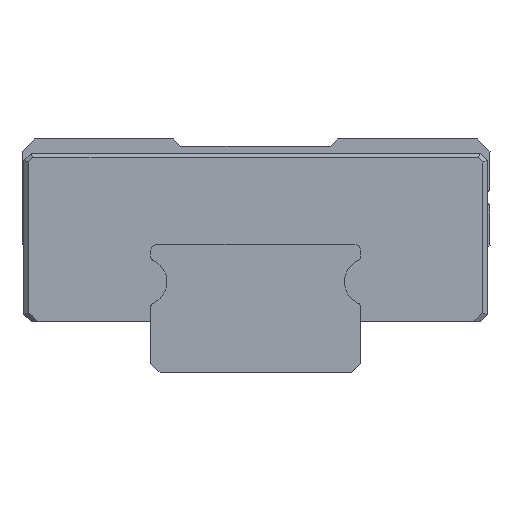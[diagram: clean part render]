
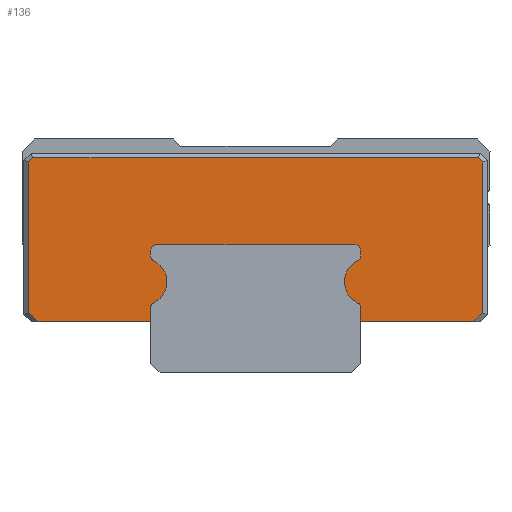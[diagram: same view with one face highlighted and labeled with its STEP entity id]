
A CAD part, front view. The second image highlights one B-rep face of the part: STEP entity #136.
In plain terms, the highlighted planar face has unit normal (0, -1, 0).
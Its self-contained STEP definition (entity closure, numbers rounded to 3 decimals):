
#136 = ADVANCED_FACE( '', ( #272 ), #273, .F. );
#272 = FACE_OUTER_BOUND( '', #532, .T. );
#273 = PLANE( '', #533 );
#532 = EDGE_LOOP( '', ( #871, #872, #873, #874, #875, #876, #877, #878, #879, #880, #881, #882, #883, #884, #885, #886, #887, #888, #889, #890, #891, #892 ) );
#533 = AXIS2_PLACEMENT_3D( '', #893, #894, #895 );
#871 = ORIENTED_EDGE( '', *, *, #1810, .T. );
#872 = ORIENTED_EDGE( '', *, *, #1811, .T. );
#873 = ORIENTED_EDGE( '', *, *, #1812, .T. );
#874 = ORIENTED_EDGE( '', *, *, #1813, .F. );
#875 = ORIENTED_EDGE( '', *, *, #1814, .F. );
#876 = ORIENTED_EDGE( '', *, *, #1815, .F. );
#877 = ORIENTED_EDGE( '', *, *, #1816, .F. );
#878 = ORIENTED_EDGE( '', *, *, #1817, .F. );
#879 = ORIENTED_EDGE( '', *, *, #1818, .F. );
#880 = ORIENTED_EDGE( '', *, *, #1819, .F. );
#881 = ORIENTED_EDGE( '', *, *, #1820, .F. );
#882 = ORIENTED_EDGE( '', *, *, #1821, .F. );
#883 = ORIENTED_EDGE( '', *, *, #1822, .F. );
#884 = ORIENTED_EDGE( '', *, *, #1823, .F. );
#885 = ORIENTED_EDGE( '', *, *, #1824, .F. );
#886 = ORIENTED_EDGE( '', *, *, #1825, .F. );
#887 = ORIENTED_EDGE( '', *, *, #1826, .T. );
#888 = ORIENTED_EDGE( '', *, *, #1827, .T. );
#889 = ORIENTED_EDGE( '', *, *, #1828, .T. );
#890 = ORIENTED_EDGE( '', *, *, #1829, .T. );
#891 = ORIENTED_EDGE( '', *, *, #1830, .T. );
#892 = ORIENTED_EDGE( '', *, *, #1831, .T. );
#893 = CARTESIAN_POINT( '', ( 46.8, 27.35, 5.8 ) );
#894 = DIRECTION( '', ( 0., 1., 0. ) );
#895 = DIRECTION( '', ( 1., 0., 0. ) );
#1810 = EDGE_CURVE( '', #2170, #2171, #2172, .T. );
#1811 = EDGE_CURVE( '', #2171, #2173, #2174, .T. );
#1812 = EDGE_CURVE( '', #2173, #2175, #2176, .T. );
#1813 = EDGE_CURVE( '', #2177, #2175, #2178, .T. );
#1814 = EDGE_CURVE( '', #2179, #2177, #2180, .T. );
#1815 = EDGE_CURVE( '', #2181, #2179, #2182, .T. );
#1816 = EDGE_CURVE( '', #2183, #2181, #2184, .T. );
#1817 = EDGE_CURVE( '', #2185, #2183, #2186, .T. );
#1818 = EDGE_CURVE( '', #2187, #2185, #2188, .T. );
#1819 = EDGE_CURVE( '', #2189, #2187, #2190, .T. );
#1820 = EDGE_CURVE( '', #2191, #2189, #2192, .T. );
#1821 = EDGE_CURVE( '', #2193, #2191, #2194, .T. );
#1822 = EDGE_CURVE( '', #2195, #2193, #2196, .T. );
#1823 = EDGE_CURVE( '', #2197, #2195, #2198, .T. );
#1824 = EDGE_CURVE( '', #2199, #2197, #2200, .T. );
#1825 = EDGE_CURVE( '', #2201, #2199, #2202, .T. );
#1826 = EDGE_CURVE( '', #2201, #2203, #2204, .T. );
#1827 = EDGE_CURVE( '', #2203, #2205, #2206, .T. );
#1828 = EDGE_CURVE( '', #2205, #2207, #2208, .T. );
#1829 = EDGE_CURVE( '', #2207, #2209, #2210, .T. );
#1830 = EDGE_CURVE( '', #2209, #2211, #2212, .T. );
#1831 = EDGE_CURVE( '', #2211, #2170, #2213, .T. );
#2170 = VERTEX_POINT( '', #2718 );
#2171 = VERTEX_POINT( '', #2719 );
#2172 = LINE( '', #2720, #2721 );
#2173 = VERTEX_POINT( '', #2722 );
#2174 = LINE( '', #2723, #2724 );
#2175 = VERTEX_POINT( '', #2725 );
#2176 = LINE( '', #2726, #2727 );
#2177 = VERTEX_POINT( '', #2728 );
#2178 = LINE( '', #2729, #2730 );
#2179 = VERTEX_POINT( '', #2731 );
#2180 = CIRCLE( '', #2732, 0.2 );
#2181 = VERTEX_POINT( '', #2733 );
#2182 = CIRCLE( '', #2734, 1.006 );
#2183 = VERTEX_POINT( '', #2735 );
#2184 = CIRCLE( '', #2736, 0.2 );
#2185 = VERTEX_POINT( '', #2737 );
#2186 = LINE( '', #2738, #2739 );
#2187 = VERTEX_POINT( '', #2740 );
#2188 = CIRCLE( '', #2741, 0.3 );
#2189 = VERTEX_POINT( '', #2742 );
#2190 = LINE( '', #2743, #2744 );
#2191 = VERTEX_POINT( '', #2745 );
#2192 = CIRCLE( '', #2746, 0.3 );
#2193 = VERTEX_POINT( '', #2747 );
#2194 = LINE( '', #2748, #2749 );
#2195 = VERTEX_POINT( '', #2750 );
#2196 = CIRCLE( '', #2751, 0.2 );
#2197 = VERTEX_POINT( '', #2752 );
#2198 = CIRCLE( '', #2753, 1.006 );
#2199 = VERTEX_POINT( '', #2754 );
#2200 = CIRCLE( '', #2755, 0.2 );
#2201 = VERTEX_POINT( '', #2756 );
#2202 = LINE( '', #2757, #2758 );
#2203 = VERTEX_POINT( '', #2759 );
#2204 = LINE( '', #2760, #2761 );
#2205 = VERTEX_POINT( '', #2762 );
#2206 = LINE( '', #2763, #2764 );
#2207 = VERTEX_POINT( '', #2765 );
#2208 = LINE( '', #2766, #2767 );
#2209 = VERTEX_POINT( '', #2768 );
#2210 = LINE( '', #2769, #2770 );
#2211 = VERTEX_POINT( '', #2771 );
#2212 = LINE( '', #2772, #2773 );
#2213 = LINE( '', #2774, #2775 );
#2718 = CARTESIAN_POINT( '', ( 50.3, 27.35, 9.017 ) );
#2719 = CARTESIAN_POINT( '', ( 50.3, 27.35, 2.583 ) );
#2720 = CARTESIAN_POINT( '', ( 50.3, 27.35, 2.5 ) );
#2721 = VECTOR( '', #3392, 1. );
#2722 = CARTESIAN_POINT( '', ( 50.683, 27.35, 2.2 ) );
#2723 = CARTESIAN_POINT( '', ( 50.541, 27.35, 2.341 ) );
#2724 = VECTOR( '', #3393, 1. );
#2725 = CARTESIAN_POINT( '', ( 55.513, 27.35, 2.2 ) );
#2726 = CARTESIAN_POINT( '', ( 60., 27.35, 2.2 ) );
#2727 = VECTOR( '', #3394, 1. );
#2728 = CARTESIAN_POINT( '', ( 55.513, 27.35, 2.808 ) );
#2729 = CARTESIAN_POINT( '', ( 55.513, 27.35, 5.8 ) );
#2730 = VECTOR( '', #3395, 1. );
#2731 = CARTESIAN_POINT( '', ( 55.628, 27.35, 2.989 ) );
#2732 = AXIS2_PLACEMENT_3D( '', #3396, #3397, #3398 );
#2733 = CARTESIAN_POINT( '', ( 55.628, 27.35, 4.811 ) );
#2734 = AXIS2_PLACEMENT_3D( '', #3399, #3400, #3401 );
#2735 = CARTESIAN_POINT( '', ( 55.513, 27.35, 4.992 ) );
#2736 = AXIS2_PLACEMENT_3D( '', #3402, #3403, #3404 );
#2737 = CARTESIAN_POINT( '', ( 55.513, 27.35, 5.2 ) );
#2738 = CARTESIAN_POINT( '', ( 55.513, 27.35, 5.8 ) );
#2739 = VECTOR( '', #3405, 1. );
#2740 = CARTESIAN_POINT( '', ( 55.813, 27.35, 5.5 ) );
#2741 = AXIS2_PLACEMENT_3D( '', #3406, #3407, #3408 );
#2742 = CARTESIAN_POINT( '', ( 64.188, 27.35, 5.5 ) );
#2743 = CARTESIAN_POINT( '', ( 46.8, 27.35, 5.5 ) );
#2744 = VECTOR( '', #3409, 1. );
#2745 = CARTESIAN_POINT( '', ( 64.488, 27.35, 5.2 ) );
#2746 = AXIS2_PLACEMENT_3D( '', #3410, #3411, #3412 );
#2747 = CARTESIAN_POINT( '', ( 64.488, 27.35, 4.992 ) );
#2748 = CARTESIAN_POINT( '', ( 64.488, 27.35, 5.8 ) );
#2749 = VECTOR( '', #3413, 1. );
#2750 = CARTESIAN_POINT( '', ( 64.372, 27.35, 4.811 ) );
#2751 = AXIS2_PLACEMENT_3D( '', #3414, #3415, #3416 );
#2752 = CARTESIAN_POINT( '', ( 64.372, 27.35, 2.989 ) );
#2753 = AXIS2_PLACEMENT_3D( '', #3417, #3418, #3419 );
#2754 = CARTESIAN_POINT( '', ( 64.488, 27.35, 2.808 ) );
#2755 = AXIS2_PLACEMENT_3D( '', #3420, #3421, #3422 );
#2756 = CARTESIAN_POINT( '', ( 64.488, 27.35, 2.2 ) );
#2757 = CARTESIAN_POINT( '', ( 64.488, 27.35, 5.8 ) );
#2758 = VECTOR( '', #3423, 1. );
#2759 = CARTESIAN_POINT( '', ( 69.317, 27.35, 2.2 ) );
#2760 = CARTESIAN_POINT( '', ( 60., 27.35, 2.2 ) );
#2761 = VECTOR( '', #3424, 1. );
#2762 = CARTESIAN_POINT( '', ( 69.7, 27.35, 2.583 ) );
#2763 = CARTESIAN_POINT( '', ( 69.759, 27.35, 2.641 ) );
#2764 = VECTOR( '', #3425, 1. );
#2765 = CARTESIAN_POINT( '', ( 69.7, 27.35, 9.017 ) );
#2766 = CARTESIAN_POINT( '', ( 69.7, 27.35, 9.1 ) );
#2767 = VECTOR( '', #3426, 1. );
#2768 = CARTESIAN_POINT( '', ( 69.517, 27.35, 9.2 ) );
#2769 = CARTESIAN_POINT( '', ( 69.459, 27.35, 9.259 ) );
#2770 = VECTOR( '', #3427, 1. );
#2771 = CARTESIAN_POINT( '', ( 50.483, 27.35, 9.2 ) );
#2772 = CARTESIAN_POINT( '', ( 50.4, 27.35, 9.2 ) );
#2773 = VECTOR( '', #3428, 1. );
#2774 = CARTESIAN_POINT( '', ( 50.241, 27.35, 8.959 ) );
#2775 = VECTOR( '', #3429, 1. );
#3392 = DIRECTION( '', ( 0., 0., -1. ) );
#3393 = DIRECTION( '', ( 0.707, 0., -0.707 ) );
#3394 = DIRECTION( '', ( 1., 0., 0. ) );
#3395 = DIRECTION( '', ( 0., 0., -1. ) );
#3396 = CARTESIAN_POINT( '', ( 55.713, 27.35, 2.808 ) );
#3397 = DIRECTION( '', ( 0., -1., 0. ) );
#3398 = DIRECTION( '', ( 0., 0., 1. ) );
#3399 = CARTESIAN_POINT( '', ( 55.2, 27.35, 3.9 ) );
#3400 = DIRECTION( '', ( 0., 1., 0. ) );
#3401 = DIRECTION( '', ( 0., 0., 1. ) );
#3402 = CARTESIAN_POINT( '', ( 55.713, 27.35, 4.992 ) );
#3403 = DIRECTION( '', ( 0., -1., 0. ) );
#3404 = DIRECTION( '', ( 0., 0., 1. ) );
#3405 = DIRECTION( '', ( 0., 0., -1. ) );
#3406 = CARTESIAN_POINT( '', ( 55.813, 27.35, 5.2 ) );
#3407 = DIRECTION( '', ( 0., -1., 0. ) );
#3408 = DIRECTION( '', ( 0., 0., 1. ) );
#3409 = DIRECTION( '', ( -1., 0., 0. ) );
#3410 = CARTESIAN_POINT( '', ( 64.188, 27.35, 5.2 ) );
#3411 = DIRECTION( '', ( 0., -1., 0. ) );
#3412 = DIRECTION( '', ( 0., 0., 1. ) );
#3413 = DIRECTION( '', ( 0., 0., 1. ) );
#3414 = CARTESIAN_POINT( '', ( 64.288, 27.35, 4.992 ) );
#3415 = DIRECTION( '', ( 0., -1., 0. ) );
#3416 = DIRECTION( '', ( 0., 0., 1. ) );
#3417 = CARTESIAN_POINT( '', ( 64.8, 27.35, 3.9 ) );
#3418 = DIRECTION( '', ( 0., 1., 0. ) );
#3419 = DIRECTION( '', ( 0., 0., 1. ) );
#3420 = CARTESIAN_POINT( '', ( 64.288, 27.35, 2.808 ) );
#3421 = DIRECTION( '', ( 0., -1., 0. ) );
#3422 = DIRECTION( '', ( 0., 0., 1. ) );
#3423 = DIRECTION( '', ( 0., 0., 1. ) );
#3424 = DIRECTION( '', ( 1., 0., 0. ) );
#3425 = DIRECTION( '', ( 0.707, 0., 0.707 ) );
#3426 = DIRECTION( '', ( 0., 0., 1. ) );
#3427 = DIRECTION( '', ( -0.707, 0., 0.707 ) );
#3428 = DIRECTION( '', ( -1., 0., 0. ) );
#3429 = DIRECTION( '', ( -0.707, 0., -0.707 ) );
